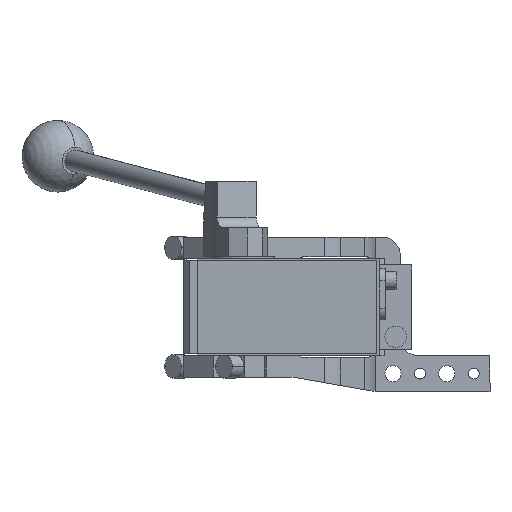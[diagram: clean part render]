
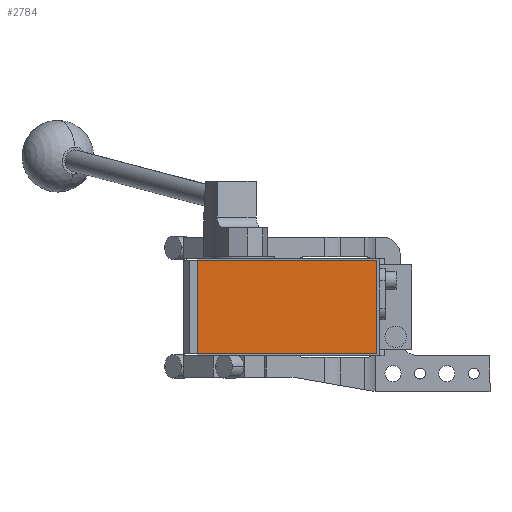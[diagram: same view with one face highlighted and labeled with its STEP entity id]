
A CAD part, front view. The second image highlights one B-rep face of the part: STEP entity #2784.
In plain terms, the highlighted planar face has unit normal (0, -1, 0).
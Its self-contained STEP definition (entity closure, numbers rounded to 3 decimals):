
#39 = ORIENTED_EDGE ( 'NONE', *, *, #10102, .T. ) ;
#195 = ORIENTED_EDGE ( 'NONE', *, *, #12456, .T. ) ;
#836 = CARTESIAN_POINT ( 'NONE',  ( 0., -286.5, 0. ) ) ;
#934 = LINE ( 'NONE', #14877, #2348 ) ;
#1552 = VECTOR ( 'NONE', #10123, 1000. ) ;
#2348 = VECTOR ( 'NONE', #4453, 1000. ) ;
#2370 = CARTESIAN_POINT ( 'NONE',  ( 81., -286.5, -26. ) ) ;
#2784 = ADVANCED_FACE ( 'NONE', ( #12477 ), #5712, .T. ) ;
#2947 = VECTOR ( 'NONE', #9330, 1000. ) ;
#3133 = DIRECTION ( 'NONE',  ( 0., 0., -1. ) ) ;
#3672 = VERTEX_POINT ( 'NONE', #5672 ) ;
#4453 = DIRECTION ( 'NONE',  ( 1., 0., 0. ) ) ;
#5209 = CARTESIAN_POINT ( 'NONE',  ( -19., -286.5, 26. ) ) ;
#5372 = DIRECTION ( 'NONE',  ( 0., 0., 1. ) ) ;
#5508 = CARTESIAN_POINT ( 'NONE',  ( -19., -286.5, 26. ) ) ;
#5672 = CARTESIAN_POINT ( 'NONE',  ( -19., -286.5, 26. ) ) ;
#5712 = PLANE ( 'NONE',  #12008 ) ;
#5850 = ORIENTED_EDGE ( 'NONE', *, *, #8312, .T. ) ;
#6357 = LINE ( 'NONE', #7725, #12126 ) ;
#7725 = CARTESIAN_POINT ( 'NONE',  ( 81., -286.5, 26. ) ) ;
#7993 = CARTESIAN_POINT ( 'NONE',  ( -19., -286.5, -26. ) ) ;
#8258 = LINE ( 'NONE', #5209, #2947 ) ;
#8312 = EDGE_CURVE ( 'NONE', #12060, #3672, #14855, .T. ) ;
#9330 = DIRECTION ( 'NONE',  ( 0., 0., -1. ) ) ;
#9819 = VERTEX_POINT ( 'NONE', #7993 ) ;
#10101 = DIRECTION ( 'NONE',  ( 0., -1., 0. ) ) ;
#10102 = EDGE_CURVE ( 'NONE', #9819, #13835, #934, .T. ) ;
#10123 = DIRECTION ( 'NONE',  ( -1., 0., 0. ) ) ;
#10795 = CARTESIAN_POINT ( 'NONE',  ( 81., -286.5, 26. ) ) ;
#11550 = EDGE_LOOP ( 'NONE', ( #15074, #39, #195, #5850 ) ) ;
#12008 = AXIS2_PLACEMENT_3D ( 'NONE', #836, #10101, #3133 ) ;
#12060 = VERTEX_POINT ( 'NONE', #10795 ) ;
#12126 = VECTOR ( 'NONE', #5372, 1000. ) ;
#12456 = EDGE_CURVE ( 'NONE', #13835, #12060, #6357, .T. ) ;
#12477 = FACE_OUTER_BOUND ( 'NONE', #11550, .T. ) ;
#13546 = EDGE_CURVE ( 'NONE', #3672, #9819, #8258, .T. ) ;
#13835 = VERTEX_POINT ( 'NONE', #2370 ) ;
#14855 = LINE ( 'NONE', #5508, #1552 ) ;
#14877 = CARTESIAN_POINT ( 'NONE',  ( -19., -286.5, -26. ) ) ;
#15074 = ORIENTED_EDGE ( 'NONE', *, *, #13546, .T. ) ;
